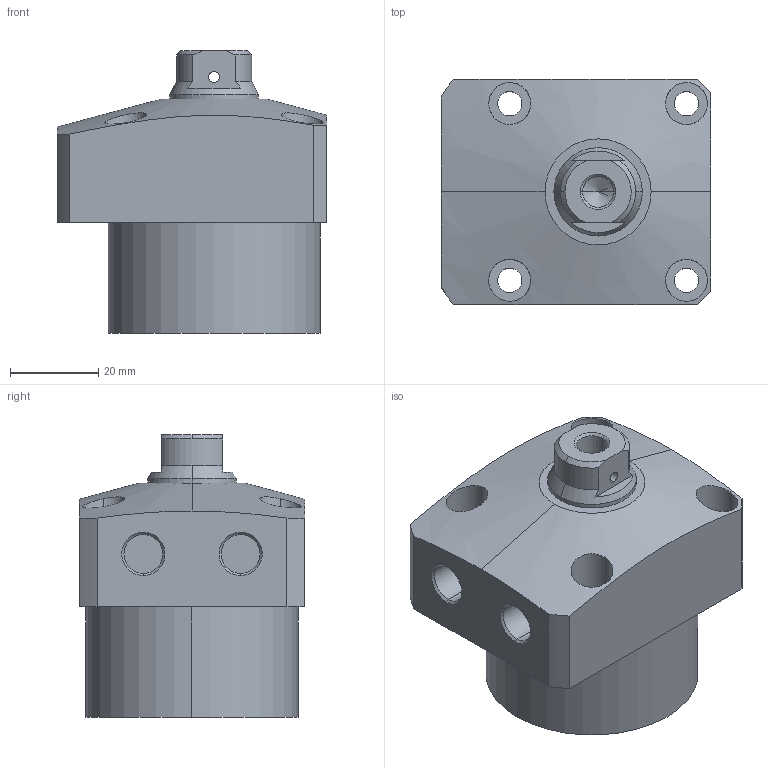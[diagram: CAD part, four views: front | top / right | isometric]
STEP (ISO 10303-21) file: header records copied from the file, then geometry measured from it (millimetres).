
FILE_DESCRIPTION (( 'STEP AP203' ), '1' );
FILE_NAME ('CLL-048CB-015.STEP', '2019-12-20T02:28:14', ( '' ), ( '' ), 'SwSTEP 2.0', 'SolidWorks 2015', '' );
FILE_SCHEMA (( 'CONFIG_CONTROL_DESIGN' ));
Length unit declared in the file: millimetre
Products named in the file (1): CLL-048CB-015
Bounding box: 61 x 51 x 64 mm (x, y, z)
Volume: 119808.8 mm3; surface area: 18371.7 mm2
Topology: 1 solids, 1 shells, 76 faces, 181 edges, 116 vertices
Faces by surface type: cylinder 39, plane 22, cone 15
Entity records: 2695 total; most frequent: CARTESIAN_POINT 818, DIRECTION 386, ORIENTED_EDGE 358, EDGE_CURVE 179, AXIS2_PLACEMENT_3D 158, VERTEX_POINT 116, EDGE_LOOP 99, CIRCLE 81
